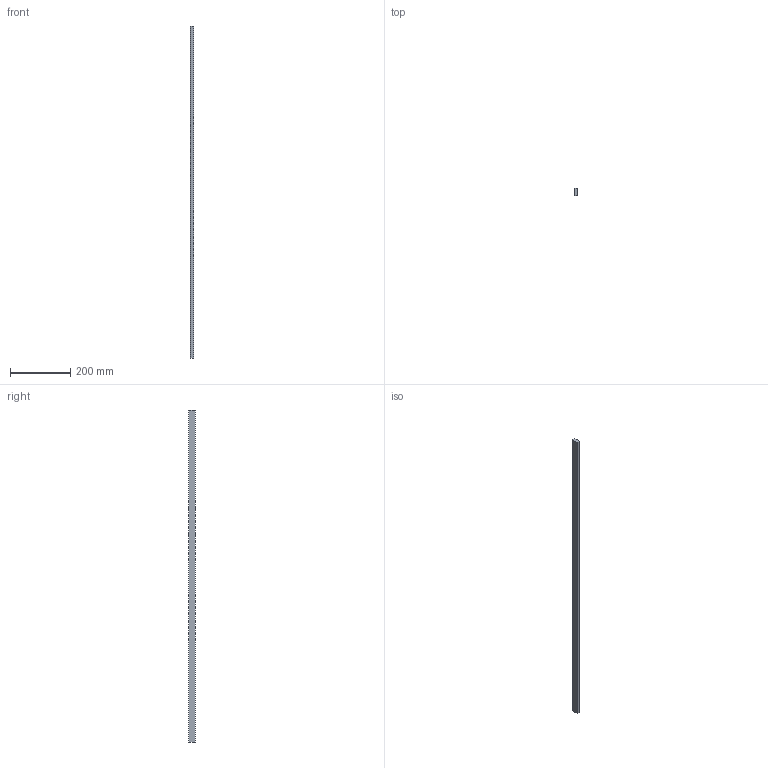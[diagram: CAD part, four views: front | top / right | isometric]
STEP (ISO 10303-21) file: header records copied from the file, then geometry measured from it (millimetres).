
FILE_DESCRIPTION (( 'STEP AP203' ), '1' );
FILE_NAME ('HT10071.STEP', '2021-03-30T01:00:12', ( 'Users' ), ( 'Microsoft' ), 'SwSTEP 2.0', 'SolidWorks 2018', '' );
FILE_SCHEMA (( 'CONFIG_CONTROL_DESIGN' ));
Length unit declared in the file: millimetre
Products named in the file (1): HT10071
Bounding box: 11 x 22.4 x 1100 mm (x, y, z)
Volume: 270095.8 mm3; surface area: 72082.6 mm2
Topology: 1 solids, 1 shells, 10 faces, 24 edges, 16 vertices
Faces by surface type: plane 6, cylinder 4
Entity records: 373 total; most frequent: DIRECTION 54, CARTESIAN_POINT 51, ORIENTED_EDGE 48, EDGE_CURVE 24, AXIS2_PLACEMENT_3D 19, LINE 16, VECTOR 16, VERTEX_POINT 16
